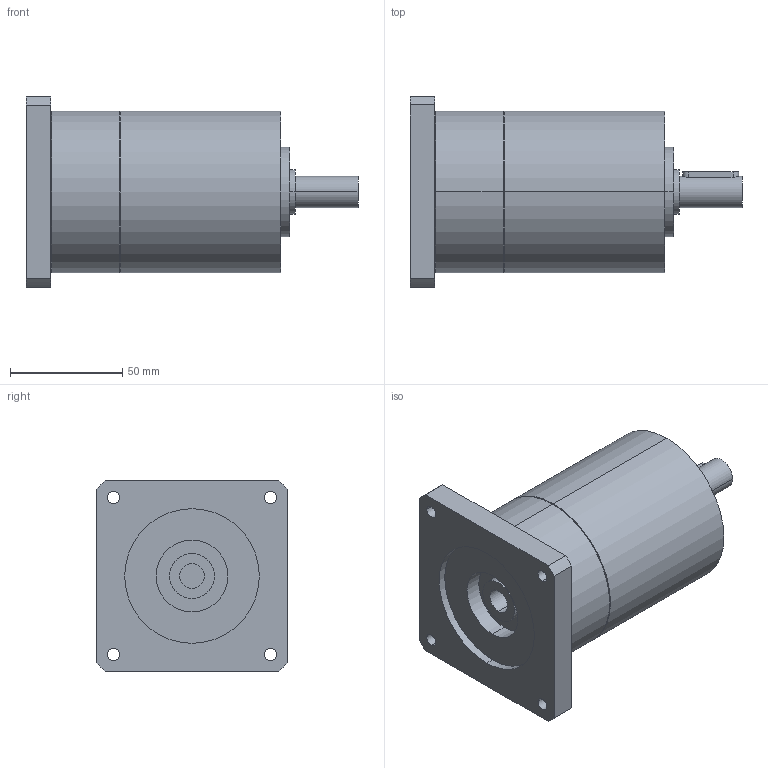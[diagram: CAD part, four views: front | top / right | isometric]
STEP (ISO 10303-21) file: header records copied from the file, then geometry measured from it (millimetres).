
FILE_DESCRIPTION(('CoCreate Modeling STEP Export'),'2;1');
FILE_NAME('GPT75_ig-9-12-16-20-25-28-35-40-50-70-100_14_B14T_11_P33.stp','2014-08-27T13:08:50',(''),(''),'CoCreate Modeling STEP processor for AP214 (Solid Model)','CoCreate Modeling 16.00C 25-Feb-2009 (C) Parametric Technology GmbH','');
FILE_SCHEMA(('AUTOMOTIVE_DESIGN { 1 0 10303 214 1 1 1 1 }'));
Length unit declared in the file: millimetre
Products named in the file (2): GPT75_ig-9-12-16-20-25-28-35-40-50-70-100_14_B14T_11_P33
Assembly tree (1 placements, depth 2):
  GPT75_ig-9-12-16-20-25-28-35-40-50-70-100_14_B14T_11_P33
    GPT75_ig-9-12-16-20-25-28-35-40-50-70-100_14_B14T_11_P33
Bounding box: 148 x 85 x 85 mm (x, y, z)
Volume: 486888 mm3; surface area: 47687.5 mm2
Topology: 1 solids, 1 shells, 69 faces, 166 edges, 113 vertices
Faces by surface type: cylinder 42, plane 23, cone 4
Entity records: 2161 total; most frequent: CARTESIAN_POINT 664, ORIENTED_EDGE 332, DIRECTION 262, EDGE_CURVE 166, VERTEX_POINT 113, AXIS2_PLACEMENT_3D 99, EDGE_LOOP 91, FACE_OUTER_BOUND 69
